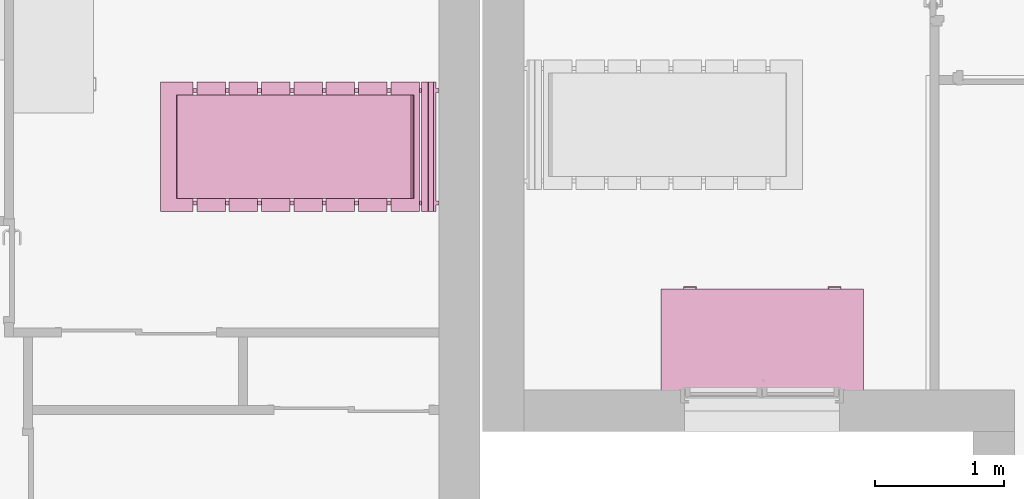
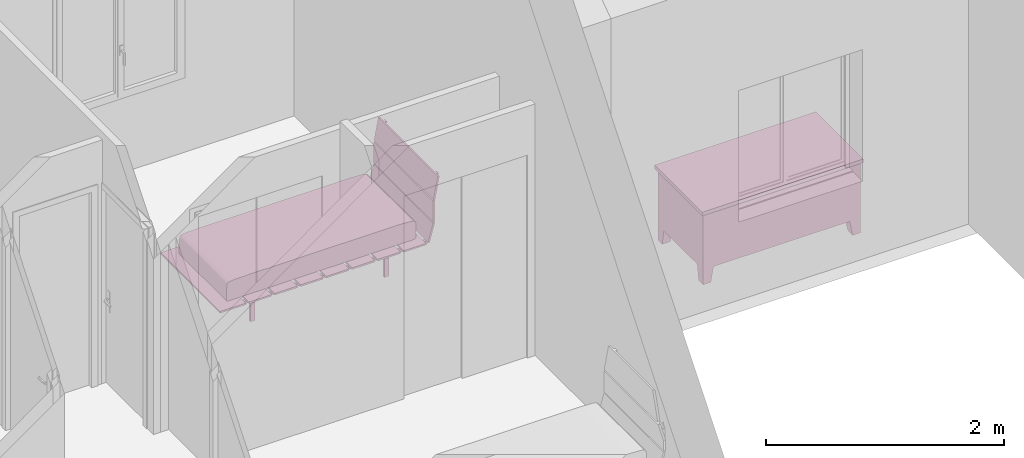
# One storey, part 54 of 61: 2 furnishings.
"""IFC2X3 building model written with IfcOpenShell, lengths in metres."""

from ifc_helpers import new_model, entity, si_unit, converted_unit, derived_unit, direction, frame, frame_2d, origin, origin_2d_with_axis, place, context, subcontext, project, spatial, polyline, circle_curve, parameter, trimmed, segment, composite_curve, rectangle, outline, extrude, faceted_brep, source, transform, mapped, material, material_list, type_object, type_shapes, element, save


model = new_model("IFC2X3")

# Units and contexts
model_context = context("Model", 3, precision=1e-05, world=origin(), true_north=direction((6.12303176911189e-17, 1.0)))
body_context = subcontext(model_context, "Body", "Model", "MODEL_VIEW")
ifc_project = project(units=[si_unit("LENGTHUNIT", "METRE"), si_unit("AREAUNIT", "SQUARE_METRE"), si_unit("VOLUMEUNIT", "CUBIC_METRE"), converted_unit("PLANEANGLEUNIT", "DEGREE", entity("IfcRatioMeasure", 0.0174532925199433), si_unit("PLANEANGLEUNIT", "RADIAN"), dimensions=[0, 0, 0, 0, 0, 0, 0]), si_unit("MASSUNIT", "GRAM", prefix="KILO"), derived_unit("MASSDENSITYUNIT", [(si_unit("MASSUNIT", "GRAM", prefix="KILO"), 1), (si_unit("LENGTHUNIT", "METRE"), -3)]), si_unit("TIMEUNIT", "SECOND"), si_unit("FREQUENCYUNIT", "HERTZ"), si_unit("THERMODYNAMICTEMPERATUREUNIT", "DEGREE_CELSIUS"), derived_unit("THERMALTRANSMITTANCEUNIT", [(si_unit("MASSUNIT", "GRAM", prefix="KILO"), 1), (si_unit("THERMODYNAMICTEMPERATUREUNIT", "KELVIN"), -1), (si_unit("TIMEUNIT", "SECOND"), -3)]), derived_unit("VOLUMETRICFLOWRATEUNIT", [(si_unit("LENGTHUNIT", "METRE"), 3), (si_unit("TIMEUNIT", "SECOND"), -1)]), si_unit("ELECTRICCURRENTUNIT", "AMPERE"), si_unit("ELECTRICVOLTAGEUNIT", "VOLT"), si_unit("POWERUNIT", "WATT"), si_unit("FORCEUNIT", "NEWTON", prefix="KILO"), si_unit("ILLUMINANCEUNIT", "LUX"), si_unit("LUMINOUSFLUXUNIT", "LUMEN"), si_unit("LUMINOUSINTENSITYUNIT", "CANDELA"), derived_unit("USERDEFINED", [(si_unit("MASSUNIT", "GRAM", prefix="KILO"), -1), (si_unit("LENGTHUNIT", "METRE"), -2), (si_unit("TIMEUNIT", "SECOND"), 3), (si_unit("LUMINOUSFLUXUNIT", "LUMEN"), 1)]), derived_unit("LINEARVELOCITYUNIT", [(si_unit("LENGTHUNIT", "METRE"), 1), (si_unit("TIMEUNIT", "SECOND"), -1)]), si_unit("PRESSUREUNIT", "PASCAL"), derived_unit("USERDEFINED", [(si_unit("LENGTHUNIT", "METRE"), -2), (si_unit("MASSUNIT", "GRAM", prefix="KILO"), 1), (si_unit("TIMEUNIT", "SECOND"), -2)])], contexts=[model_context])

# Site, building, storey
site_placement = place(None, origin())
site = spatial("IfcSite", under=ifc_project, at=site_placement, Name="Surface", CompositionType="ELEMENT")
building_placement = place(site_placement, origin())
building = spatial("IfcBuilding", under=site, at=building_placement, CompositionType="ELEMENT")
storey_placement = place(building_placement, frame((0.0, 0.0, 2.82)))
storey = spatial("IfcBuildingStorey", under=building, at=storey_placement, Name="ETAGE", CompositionType="ELEMENT", Elevation=2.82)

# Furnishings
ifc_material_1 = material(Name="Textile - Bleu pâle")
ifc_material_2 = material(Name="Bois - Teck")
ifc_material_3 = material(Name="Plastique - Noir")
ifc_material_list_1 = material_list([ifc_material_1, ifc_material_2, ifc_material_3])
ifc_material_list_2 = material_list([ifc_material_1, ifc_material_2, ifc_material_3])
furniture_type_1 = type_object("IfcFurnitureType", Name="1000 mm x 2000 mm 3", material=ifc_material_list_2)
shared_shape_1 = source(origin(), body_context, "Body", "SweptSolid", [
    extrude(outline(composite_curve([segment(polyline([(0.753947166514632, -0.0964613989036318), (0.883258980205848, -0.0964613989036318)]), True, "CONTINUOUS"), segment(trimmed(circle_curve(frame_2d((0.82804087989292, 1.1581587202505), x_axis=(0.999878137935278, -0.0156111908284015)), 1.25583465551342), [parameter(273.414556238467)], [parameter(275.726345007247)], True, "PARAMETER"), True, "CONTINUOUS"), segment(trimmed(circle_curve(frame_2d((0.929150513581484, -0.0379486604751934), x_axis=(0.999878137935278, -0.0156111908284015)), 0.0554613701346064), [parameter(275.726345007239)], [parameter(297.64810869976)], True, "PARAMETER"), True, "CONTINUOUS"), segment(trimmed(circle_curve(frame_2d((0.943544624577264, -0.0665015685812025), x_axis=(0.999878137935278, -0.0156111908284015)), 0.0234854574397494), [parameter(297.648108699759)], [parameter(348.570161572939)], True, "PARAMETER"), True, "CONTINUOUS"), segment(trimmed(circle_curve(frame_2d((0.767446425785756, -0.0280276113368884), x_axis=(0.999878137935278, -0.0156111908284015)), 0.203737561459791), [parameter(348.570161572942)], [parameter(3.56222124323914e-13)], True, "PARAMETER"), True, "CONTINUOUS"), segment(polyline([(0.971159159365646, -0.0312081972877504), (0.97301851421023, 0.0878812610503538)]), True, "CONTINUOUS"), segment(polyline([(0.97301851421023, 0.0878812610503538), (0.971187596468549, 0.10002359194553)]), True, "CONTINUOUS"), segment(polyline([(0.971187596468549, 0.10002359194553), (0.955059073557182, 0.102294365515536)]), True, "CONTINUOUS"), segment(polyline([(0.955059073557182, 0.102294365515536), (-0.834665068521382, 0.130237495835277)]), True, "CONTINUOUS"), segment(polyline([(-0.834665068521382, 0.130237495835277), (-0.854928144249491, 0.12651595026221)]), True, "CONTINUOUS"), segment(polyline([(-0.854928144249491, 0.12651595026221), (-0.861114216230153, 0.118536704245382)]), True, "CONTINUOUS"), segment(polyline([(-0.861114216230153, 0.118536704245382), (-0.865626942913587, 0.0883228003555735)]), True, "CONTINUOUS"), segment(polyline([(-0.865626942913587, 0.0883228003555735), (-0.866982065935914, 0.00152878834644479)]), True, "CONTINUOUS"), segment(polyline([(-0.866982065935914, 0.00152878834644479), (-0.863446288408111, -0.0308297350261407)]), True, "CONTINUOUS"), segment(polyline([(-0.863446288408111, -0.0308297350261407), (-0.857669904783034, -0.0490905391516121)]), True, "CONTINUOUS"), segment(polyline([(-0.857669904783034, -0.0490905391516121), (-0.843687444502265, -0.0594036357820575)]), True, "CONTINUOUS"), segment(polyline([(-0.843687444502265, -0.0594036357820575), (-0.817521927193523, -0.0658690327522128)]), True, "CONTINUOUS"), segment(polyline([(-0.817521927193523, -0.0658690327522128), (-0.696416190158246, -0.0738167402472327)]), True, "CONTINUOUS"), segment(polyline([(-0.696416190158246, -0.0738167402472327), (0.753947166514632, -0.0964613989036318)]), True, "CONTINUOUS")], self_intersect=False)), frame((-0.4, -1.05656455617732, 0.367191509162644), z_axis=(1.0, 0.0, 0.0), x_axis=(0.0, -0.999878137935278, -0.0156111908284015)), (0.0, 0.0, 1.0), 0.799999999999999),
    extrude(rectangle(XDim=0.249999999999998, YDim=1.0, at=origin_2d_with_axis()), frame((0.0, -2.02499620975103, 0.232311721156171), z_axis=(0.0, 0.0, 1.0), x_axis=(0.0, 1.0, 0.0)), (0.0, 0.0, 1.0), 0.0176882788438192),
    extrude(outline(polyline([(-0.00463256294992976, -0.115042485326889), (0.0130278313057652, -0.115042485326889), (0.00471132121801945, 0.115371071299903), (-0.0131065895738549, 0.114713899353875), (-0.00463256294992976, -0.115042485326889)])), frame((-0.5, -0.051324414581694, 0.783374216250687), z_axis=(1.0, 0.0, 0.0), x_axis=(0.0, 0.975885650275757, -0.218282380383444)), (0.0, 0.0, 1.0), 0.999999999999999),
    extrude(rectangle(XDim=0.219999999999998, YDim=1.0, at=frame_2d((-1.38777878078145e-16, 0.0), x_axis=(1.0, 0.0))), frame((0.0, -1.75999620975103, 0.232311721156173), z_axis=(0.0, 0.0, 1.0), x_axis=(0.0, 1.0, 0.0)), (0.0, 0.0, 1.0), 0.0176882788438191),
    extrude(rectangle(XDim=0.219999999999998, YDim=1.0, at=frame_2d((-1.31838984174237e-16, 0.0), x_axis=(1.0, 0.0))), frame((0.0, -1.50999620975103, 0.232311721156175), z_axis=(0.0, 0.0, 1.0), x_axis=(0.0, 1.0, 0.0)), (0.0, 0.0, 1.0), 0.017688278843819),
    extrude(rectangle(XDim=0.219999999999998, YDim=1.0, at=frame_2d((-1.38777878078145e-16, 0.0), x_axis=(1.0, 0.0))), frame((0.0, -1.25999620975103, 0.232311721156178), z_axis=(0.0, 0.0, 1.0), x_axis=(0.0, 1.0, 0.0)), (0.0, 0.0, 1.0), 0.0176882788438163),
    extrude(rectangle(XDim=0.219999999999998, YDim=1.0, at=frame_2d((6.93889390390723e-17, 0.0), x_axis=(1.0, 0.0))), frame((0.0, -1.00999620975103, 0.232311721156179), z_axis=(0.0, 0.0, 1.0), x_axis=(0.0, 1.0, 0.0)), (0.0, 0.0, 1.0), 0.0176882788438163),
    extrude(rectangle(XDim=0.22, YDim=1.0, at=origin_2d_with_axis()), frame((0.0, -0.759996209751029, 0.232311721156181), z_axis=(0.0, 0.0, 1.0), x_axis=(0.0, 1.0, 0.0)), (0.0, 0.0, 1.0), 0.0176882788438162),
    extrude(rectangle(XDim=0.22, YDim=1.0, at=origin_2d_with_axis()), frame((0.0, -0.509996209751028, 0.232311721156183), z_axis=(0.0, 0.0, 1.0), x_axis=(0.0, 1.0, 0.0)), (0.0, 0.0, 1.0), 0.0176882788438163),
    extrude(rectangle(XDim=0.22, YDim=1.0, at=origin_2d_with_axis()), frame((0.0, -0.259996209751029, 0.232311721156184), z_axis=(0.0, 0.0, 1.0), x_axis=(0.0, 1.0, 0.0)), (0.0, 0.0, 1.0), 0.0176882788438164),
    extrude(rectangle(XDim=0.0183684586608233, YDim=1.0, at=origin_2d_with_axis()), frame((0.0, -0.0735868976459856, 0.443802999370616), z_axis=(0.0, 0.0, 1.0), x_axis=(0.0, 1.0, 0.0)), (0.0, 0.0, 1.0), 0.214481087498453),
    extrude(outline(polyline([(-0.0111603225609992, -0.093944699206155), (0.00684599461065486, -0.093944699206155), (0.0109625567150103, 0.0940897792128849), (-0.00664822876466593, 0.093799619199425), (-0.0111603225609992, -0.093944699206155)])), frame((-0.5, -0.100341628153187, 0.340588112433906), z_axis=(1.0, 0.0, 0.0), x_axis=(0.0, 0.969329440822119, -0.245764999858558)), (0.0, 0.0, 1.0), 1.0),
    extrude(rectangle(XDim=0.0421792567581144, YDim=0.03, at=frame_2d((0.0, -3.38271077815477e-17), x_axis=(1.0, 0.0))), frame((-0.434999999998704, -1.80439834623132, 0.0), z_axis=(0.0, 0.0, 1.0), x_axis=(0.0, -1.0, 0.0)), (0.0, 0.0, 1.0), 0.204645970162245),
    extrude(rectangle(XDim=0.0421792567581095, YDim=0.03, at=frame_2d((3.29597460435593e-17, -3.38271077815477e-17), x_axis=(1.0, 0.0))), frame((-0.434999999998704, -0.505017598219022, 0.0), z_axis=(0.0, 0.0, 1.0), x_axis=(0.0, -1.0, 0.0)), (0.0, 0.0, 1.0), 0.204645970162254),
    extrude(rectangle(XDim=0.0421792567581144, YDim=0.03, at=frame_2d((2.70616862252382e-16, -3.38271077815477e-17), x_axis=(1.0, 0.0))), frame((0.435000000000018, -1.80439834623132, 0.0), z_axis=(0.0, 0.0, 1.0), x_axis=(0.0, 1.0, 0.0)), (0.0, 0.0, 1.0), 0.204645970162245),
    extrude(rectangle(XDim=0.0421792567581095, YDim=0.03, at=frame_2d((-3.29597460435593e-17, -3.38271077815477e-17), x_axis=(1.0, 0.0))), frame((0.435000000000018, -0.505017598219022, 0.0), z_axis=(0.0, 0.0, 1.0), x_axis=(0.0, 1.0, 0.0)), (0.0, 0.0, 1.0), 0.204645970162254),
    extrude(outline(composite_curve([segment(polyline([(-0.333462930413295, -0.507724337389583), (-0.311650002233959, -0.507724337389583)]), True, "CONTINUOUS"), segment(polyline([(-0.311650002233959, -0.507724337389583), (-0.317185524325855, -0.272424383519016)]), True, "CONTINUOUS"), segment(polyline([(-0.317185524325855, -0.272424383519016), (-0.363847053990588, -0.050782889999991)]), True, "CONTINUOUS"), segment(polyline([(-0.363847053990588, -0.050782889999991), (-0.350538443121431, 0.161194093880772)]), True, "CONTINUOUS"), segment(polyline([(-0.350538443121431, 0.161194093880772), (1.5836166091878, 0.569312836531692)]), True, "CONTINUOUS"), segment(polyline([(1.5836166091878, 0.569312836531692), (1.55147511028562, 0.589891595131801)]), True, "CONTINUOUS"), segment(polyline([(1.55147511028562, 0.589891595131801), (-0.355855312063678, 0.188346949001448)]), True, "CONTINUOUS"), segment(trimmed(circle_curve(frame_2d((-0.350332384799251, 0.162113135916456), x_axis=(0.978549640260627, 0.206011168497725)), 0.0268088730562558), [parameter(90.0)], [parameter(167.367566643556)], True, "PARAMETER"), True, "CONTINUOUS"), segment(polyline([(-0.377138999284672, 0.162461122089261), (-0.386037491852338, -0.0554545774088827)]), True, "CONTINUOUS"), segment(polyline([(-0.386037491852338, -0.0554545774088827), (-0.339375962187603, -0.277096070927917)]), True, "CONTINUOUS"), segment(polyline([(-0.339375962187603, -0.277096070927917), (-0.333462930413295, -0.507724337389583)]), True, "CONTINUOUS")], self_intersect=False)), frame((-0.449999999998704, -0.430906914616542, 0.462262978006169), z_axis=(1.0, 0.0, 0.0), x_axis=(0.0, -0.978549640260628, 0.206011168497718)), (0.0, 0.0, 1.0), 0.0299999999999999),
    extrude(outline(composite_curve([segment(polyline([(-0.333462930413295, -0.507724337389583), (-0.311650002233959, -0.507724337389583)]), True, "CONTINUOUS"), segment(polyline([(-0.311650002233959, -0.507724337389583), (-0.317185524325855, -0.272424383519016)]), True, "CONTINUOUS"), segment(polyline([(-0.317185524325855, -0.272424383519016), (-0.363847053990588, -0.0507828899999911)]), True, "CONTINUOUS"), segment(polyline([(-0.363847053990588, -0.0507828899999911), (-0.350538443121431, 0.161194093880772)]), True, "CONTINUOUS"), segment(polyline([(-0.350538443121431, 0.161194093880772), (1.5836166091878, 0.569312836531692)]), True, "CONTINUOUS"), segment(polyline([(1.5836166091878, 0.569312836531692), (1.55147511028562, 0.5898915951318)]), True, "CONTINUOUS"), segment(polyline([(1.55147511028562, 0.5898915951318), (-0.355855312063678, 0.188346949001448)]), True, "CONTINUOUS"), segment(trimmed(circle_curve(frame_2d((-0.350332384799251, 0.162113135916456), x_axis=(0.978549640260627, 0.206011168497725)), 0.0268088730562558), [parameter(90.0)], [parameter(167.367566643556)], True, "PARAMETER"), True, "CONTINUOUS"), segment(polyline([(-0.377138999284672, 0.162461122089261), (-0.386037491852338, -0.0554545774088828)]), True, "CONTINUOUS"), segment(polyline([(-0.386037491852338, -0.0554545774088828), (-0.339375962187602, -0.277096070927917)]), True, "CONTINUOUS"), segment(polyline([(-0.339375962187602, -0.277096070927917), (-0.333462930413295, -0.507724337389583)]), True, "CONTINUOUS")], self_intersect=False)), frame((0.420000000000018, -0.430906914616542, 0.462262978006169), z_axis=(1.0, 0.0, 0.0), x_axis=(0.0, -0.978549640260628, 0.206011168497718)), (0.0, 0.0, 1.0), 0.0299999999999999),
])
type_shapes(furniture_type_1, [shared_shape_1])
furnishing_1_placement = place(storey_placement, frame((75.962889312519, 86.1277566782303, 0.0199999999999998), z_axis=(0.0, 0.0, 1.0), x_axis=(0.0, -1.0, 0.0)))
element("IfcFurnishingElement", 1, at=furnishing_1_placement, inside=storey, type_object=furniture_type_1, material=ifc_material_list_1, Name="Lit à lattes:1000 mm x 2000 mm 3", ObjectType="Lit à lattes:1000 mm x 2000 mm 3", context=body_context, shape_type="MappedRepresentation", body=[
    mapped(shared_shape_1, transform((0.0, 0.0, 0.0), scale=1.0)),
])
ifc_material_4 = material(Name="Bois - Mélaminé ivoire")
ifc_material_5 = material(Name="Métal - Chrome")
ifc_material_6 = material(Name="Bois - Cerisier")
ifc_material_list_3 = material_list([ifc_material_4, ifc_material_5, ifc_material_6])
ifc_material_list_4 = material_list([ifc_material_4, ifc_material_5, ifc_material_6])
furniture_type_2 = type_object("IfcFurnitureType", Name="1525 mm x 762 mm", material=ifc_material_list_4)
shared_shape_2 = source(origin(), body_context, "Body", "Brep", [
    faceted_brep([(1.13765, -0.761999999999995, 0.70485), (1.50595, -0.761999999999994, 0.70485), (1.50595, -0.761999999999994, 0.60325), (1.13765, -0.761999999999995, 0.60325), (1.13765, -0.774699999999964, 0.60325), (1.13765, -0.774699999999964, 0.70485), (1.50595, -0.774699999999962, 0.60325), (1.50595, -0.774699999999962, 0.70485)], [[[0, 1, 2, 3]], [[3, 4, 5, 0]], [[2, 6, 4, 3]], [[1, 7, 6, 2]], [[0, 5, 7, 1]], [[5, 4, 6, 7]]]),
    faceted_brep([(1.50595, -0.774699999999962, 0.5842), (1.13765, -0.774699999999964, 0.5842), (1.13765, -0.774699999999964, 0.17105), (1.50595, -0.774699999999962, 0.17105), (1.13765, -0.761999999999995, 0.5842), (1.50595, -0.761999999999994, 0.5842), (1.13765, -0.761999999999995, 0.17105), (1.50595, -0.761999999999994, 0.17105)], [[[0, 1, 2, 3]], [[4, 1, 0, 5]], [[6, 2, 1, 4]], [[7, 3, 2, 6]], [[5, 0, 3, 7]], [[5, 7, 6, 4]]]),
    faceted_brep([(0.38735, -0.761999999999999, 0.70485), (0.38735, -0.761999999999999, 0.60285), (0.01905, -0.761999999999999, 0.60285), (0.01905, -0.761999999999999, 0.70485), (0.01905, -0.774700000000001, 0.70485), (0.38735, -0.774700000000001, 0.70485), (0.01905, -0.774700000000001, 0.60285), (0.38735, -0.774700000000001, 0.60285)], [[[0, 1, 2, 3]], [[3, 4, 5, 0]], [[2, 6, 4, 3]], [[1, 7, 6, 2]], [[0, 5, 7, 1]], [[5, 4, 6, 7]]]),
    faceted_brep([(0.01905, -0.774700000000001, 0.5838), (0.01905, -0.774700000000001, 0.4822), (0.38735, -0.774700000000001, 0.4822), (0.38735, -0.774700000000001, 0.5838), (0.01905, -0.761999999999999, 0.4822), (0.01905, -0.761999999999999, 0.5838), (0.38735, -0.761999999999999, 0.4822), (0.38735, -0.761999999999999, 0.5838)], [[[0, 1, 2, 3]], [[4, 1, 0, 5]], [[6, 2, 1, 4]], [[7, 3, 2, 6]], [[5, 0, 3, 7]], [[5, 7, 6, 4]]]),
    faceted_brep([(0.01905, -0.761999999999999, 0.17105), (0.01905, -0.774700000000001, 0.17105), (0.01905, -0.774700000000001, 0.3425), (0.01905, -0.761999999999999, 0.3425), (0.38735, -0.761999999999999, 0.17105), (0.38735, -0.774700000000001, 0.17105), (0.38735, -0.761999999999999, 0.3425), (0.38735, -0.774700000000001, 0.3425)], [[[0, 1, 2, 3]], [[4, 5, 1, 0]], [[6, 7, 5, 4]], [[3, 2, 7, 6]], [[2, 1, 5, 7]], [[3, 6, 4, 0]]]),
    faceted_brep([(0.01905, -0.761999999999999, 0.36155), (0.01905, -0.774700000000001, 0.36155), (0.01905, -0.774700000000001, 0.46315), (0.01905, -0.761999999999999, 0.46315), (0.38735, -0.761999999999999, 0.36155), (0.38735, -0.774700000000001, 0.36155), (0.38735, -0.761999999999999, 0.46315), (0.38735, -0.774700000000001, 0.46315)], [[[0, 1, 2, 3]], [[4, 5, 1, 0]], [[6, 7, 5, 4]], [[3, 2, 7, 6]], [[2, 1, 5, 7]], [[3, 6, 4, 0]]]),
    faceted_brep([(1.42339999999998, -0.761999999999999, 0.152), (1.52499999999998, -0.761999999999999, 0.152), (1.52499999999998, -0.660399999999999, 0.152), (1.42339999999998, -0.660399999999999, 0.152), (1.44879999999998, -0.762, 0.0), (1.44879999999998, -0.6858, 0.0), (1.52499999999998, -0.6858, 0.0), (1.52499999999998, -0.762, 0.0)], [[[0, 1, 2, 3]], [[4, 5, 6, 7]], [[4, 0, 3, 5]], [[5, 3, 2, 6]], [[6, 2, 1, 7]], [[7, 1, 0, 4]]]),
    faceted_brep([(1.4234, 0.0, 0.152), (1.4234, -0.1016, 0.152), (1.525, -0.1016, 0.152), (1.525, 0.0, 0.152), (1.4488, 0.0, 0.0), (1.525, 0.0, 0.0), (1.525, -0.0761999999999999, 0.0), (1.4488, -0.0761999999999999, 0.0)], [[[0, 1, 2, 3]], [[4, 5, 6, 7]], [[4, 0, 3, 5]], [[5, 3, 2, 6]], [[6, 2, 1, 7]], [[7, 1, 0, 4]]]),
    faceted_brep([(0.1016, 0.0, 0.152), (0.0, 0.0, 0.152), (0.0, -0.1016, 0.152), (0.1016, -0.1016, 0.152), (0.0762, 0.0, 0.0), (0.0762, -0.0761999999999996, 0.0), (0.0, -0.0761999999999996, 0.0), (0.0, 0.0, 0.0)], [[[0, 1, 2, 3]], [[4, 5, 6, 7]], [[4, 0, 3, 5]], [[5, 3, 2, 6]], [[6, 2, 1, 7]], [[7, 1, 0, 4]]]),
    faceted_brep([(0.1016, -0.762000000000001, 0.152), (0.1016, -0.660400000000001, 0.152), (0.0, -0.660400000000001, 0.152), (0.0, -0.762000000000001, 0.152), (0.0761999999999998, -0.762000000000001, 0.0), (0.0, -0.762000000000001, 0.0), (0.0, -0.685800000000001, 0.0), (0.0761999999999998, -0.685800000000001, 0.0)], [[[0, 1, 2, 3]], [[4, 5, 6, 7]], [[4, 0, 3, 5]], [[5, 3, 2, 6]], [[6, 2, 1, 7]], [[7, 1, 0, 4]]]),
    faceted_brep([(0.4064, -0.761999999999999, 0.723900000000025), (0.4064, -0.0508000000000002, 0.723900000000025), (1.11860000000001, -0.0508000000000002, 0.723900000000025), (1.11860000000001, -0.761999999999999, 0.723900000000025), (1.525, -0.761999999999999, 0.723900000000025), (1.525, 0.0, 0.723900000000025), (0.0, 0.0, 0.723900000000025), (0.0, -0.761999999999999, 0.723900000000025), (0.4064, -0.761999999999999, 0.152), (0.0, -0.761999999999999, 0.152), (0.0, 0.0, 0.152), (1.525, 0.0, 0.152), (1.525, -0.761999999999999, 0.152), (1.11860000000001, -0.761999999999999, 0.152), (1.11860000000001, -0.0508000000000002, 0.152), (0.4064, -0.0508000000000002, 0.152)], [[[0, 1, 2, 3, 4, 5, 6, 7]], [[8, 9, 10, 11, 12, 13, 14, 15]], [[7, 9, 8, 0]], [[6, 10, 9, 7]], [[5, 11, 10, 6]], [[4, 12, 11, 5]], [[3, 13, 12, 4]], [[2, 14, 13, 3]], [[1, 15, 14, 2]], [[0, 8, 15, 1]]]),
    faceted_brep([(1.54405000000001, -0.781049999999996, 0.761999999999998), (1.54405000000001, 0.0190500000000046, 0.761999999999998), (-0.0190499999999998, 0.0190500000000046, 0.761999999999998), (-0.0190499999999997, -0.781049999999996, 0.761999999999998), (1.54405000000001, -0.781049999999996, 0.723900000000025), (-0.0190499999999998, -0.781049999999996, 0.723900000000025), (-0.0190499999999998, 0.0190500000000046, 0.723900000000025), (1.54405000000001, 0.0190500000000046, 0.723900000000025)], [[[0, 1, 2, 3]], [[4, 5, 6, 7]], [[3, 5, 4, 0]], [[2, 6, 5, 3]], [[1, 7, 6, 2]], [[0, 4, 7, 1]]]),
    faceted_brep([(1.36624999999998, -0.774699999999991, 0.546100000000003), (1.37259999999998, -0.774699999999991, 0.546100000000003), (1.37259999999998, -0.774699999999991, 0.533399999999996), (1.36624999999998, -0.774699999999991, 0.533399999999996), (1.36624999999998, -0.793749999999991, 0.533399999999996), (1.36624999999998, -0.793749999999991, 0.546100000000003), (1.37259999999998, -0.80009999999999, 0.533399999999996), (1.37259999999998, -0.80009999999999, 0.546100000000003), (1.27734999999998, -0.793749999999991, 0.533399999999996), (1.27734999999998, -0.793749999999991, 0.546100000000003), (1.27099999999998, -0.80009999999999, 0.533399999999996), (1.27099999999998, -0.80009999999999, 0.546100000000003), (1.27734999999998, -0.774699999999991, 0.533399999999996), (1.27734999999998, -0.774699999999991, 0.546100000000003), (1.27099999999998, -0.774699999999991, 0.533399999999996), (1.27099999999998, -0.774699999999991, 0.546100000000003)], [[[0, 1, 2, 3]], [[3, 4, 5, 0]], [[2, 6, 4, 3]], [[1, 7, 6, 2]], [[0, 5, 7, 1]], [[4, 8, 9, 5]], [[6, 10, 8, 4]], [[7, 11, 10, 6]], [[5, 9, 11, 7]], [[8, 12, 13, 9]], [[10, 14, 12, 8]], [[11, 15, 14, 10]], [[9, 13, 15, 11]], [[13, 12, 14, 15]]]),
    faceted_brep([(1.36624999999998, -0.774699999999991, 0.654050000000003), (1.36624999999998, -0.79374999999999, 0.654050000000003), (1.36624999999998, -0.79374999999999, 0.666750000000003), (1.36624999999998, -0.774699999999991, 0.666750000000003), (1.37259999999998, -0.774699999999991, 0.654050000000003), (1.37259999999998, -0.800099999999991, 0.654050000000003), (1.37259999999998, -0.774699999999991, 0.666750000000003), (1.37259999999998, -0.800099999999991, 0.666750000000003), (1.27734999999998, -0.79374999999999, 0.654050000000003), (1.27734999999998, -0.79374999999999, 0.666750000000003), (1.27099999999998, -0.800099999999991, 0.654050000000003), (1.27099999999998, -0.800099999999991, 0.666750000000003), (1.27734999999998, -0.774699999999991, 0.666750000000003), (1.27734999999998, -0.774699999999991, 0.654050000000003), (1.27099999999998, -0.774699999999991, 0.654050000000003), (1.27099999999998, -0.774699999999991, 0.666750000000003)], [[[0, 1, 2, 3]], [[4, 5, 1, 0]], [[6, 7, 5, 4]], [[3, 2, 7, 6]], [[1, 8, 9, 2]], [[5, 10, 8, 1]], [[7, 11, 10, 5]], [[2, 9, 11, 7]], [[12, 13, 14, 15]], [[8, 13, 12, 9]], [[10, 14, 13, 8]], [[11, 15, 14, 10]], [[9, 12, 15, 11]], [[3, 6, 4, 0]]]),
    faceted_brep([(0.15875, -0.774699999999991, 0.3048), (0.15875, -0.774699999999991, 0.2921), (0.1524, -0.774699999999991, 0.2921), (0.1524, -0.774699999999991, 0.3048), (0.1524, -0.800099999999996, 0.3048), (0.15875, -0.793749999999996, 0.3048), (0.1524, -0.800099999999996, 0.2921), (0.15875, -0.793749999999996, 0.2921), (0.254, -0.800099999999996, 0.3048), (0.24765, -0.793749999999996, 0.3048), (0.254, -0.800099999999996, 0.2921), (0.24765, -0.793749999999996, 0.2921), (0.254, -0.774699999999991, 0.3048), (0.24765, -0.774699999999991, 0.3048), (0.254, -0.774699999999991, 0.2921), (0.24765, -0.774699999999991, 0.2921)], [[[0, 1, 2, 3]], [[3, 4, 5, 0]], [[2, 6, 4, 3]], [[1, 7, 6, 2]], [[0, 5, 7, 1]], [[4, 8, 9, 5]], [[6, 10, 8, 4]], [[7, 11, 10, 6]], [[5, 9, 11, 7]], [[8, 12, 13, 9]], [[10, 14, 12, 8]], [[11, 15, 14, 10]], [[9, 13, 15, 11]], [[13, 12, 14, 15]]]),
    faceted_brep([(0.1524, -0.774699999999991, 0.425450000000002), (0.1524, -0.800099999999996, 0.425450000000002), (0.15875, -0.793749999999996, 0.425450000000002), (0.15875, -0.774699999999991, 0.425450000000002), (0.1524, -0.774699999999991, 0.412750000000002), (0.1524, -0.800099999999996, 0.412750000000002), (0.15875, -0.774699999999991, 0.412750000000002), (0.15875, -0.793749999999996, 0.412750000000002), (0.254, -0.800099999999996, 0.425450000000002), (0.24765, -0.793749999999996, 0.425450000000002), (0.254, -0.800099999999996, 0.412750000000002), (0.24765, -0.793749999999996, 0.412750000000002), (0.254, -0.774699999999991, 0.425450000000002), (0.24765, -0.774699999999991, 0.425450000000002), (0.254, -0.774699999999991, 0.412750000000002), (0.24765, -0.774699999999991, 0.412750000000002)], [[[0, 1, 2, 3]], [[4, 5, 1, 0]], [[6, 7, 5, 4]], [[3, 2, 7, 6]], [[1, 8, 9, 2]], [[5, 10, 8, 1]], [[7, 11, 10, 5]], [[2, 9, 11, 7]], [[8, 12, 13, 9]], [[10, 14, 12, 8]], [[11, 15, 14, 10]], [[9, 13, 15, 11]], [[13, 12, 14, 15]], [[3, 6, 4, 0]]]),
    faceted_brep([(0.1524, -0.774699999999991, 0.5461), (0.1524, -0.800099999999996, 0.5461), (0.15875, -0.793749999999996, 0.5461), (0.15875, -0.774699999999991, 0.5461), (0.1524, -0.774699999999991, 0.5334), (0.1524, -0.800099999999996, 0.5334), (0.15875, -0.774699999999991, 0.5334), (0.15875, -0.793749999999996, 0.5334), (0.254, -0.800099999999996, 0.5461), (0.24765, -0.793749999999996, 0.5461), (0.254, -0.800099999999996, 0.5334), (0.24765, -0.793749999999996, 0.5334), (0.254, -0.774699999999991, 0.5461), (0.24765, -0.774699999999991, 0.5461), (0.254, -0.774699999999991, 0.5334), (0.24765, -0.774699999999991, 0.5334)], [[[0, 1, 2, 3]], [[4, 5, 1, 0]], [[6, 7, 5, 4]], [[3, 2, 7, 6]], [[1, 8, 9, 2]], [[5, 10, 8, 1]], [[7, 11, 10, 5]], [[2, 9, 11, 7]], [[8, 12, 13, 9]], [[10, 14, 12, 8]], [[11, 15, 14, 10]], [[9, 13, 15, 11]], [[13, 12, 14, 15]], [[3, 6, 4, 0]]]),
    faceted_brep([(0.1524, -0.774699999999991, 0.666750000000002), (0.1524, -0.800099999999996, 0.666750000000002), (0.15875, -0.793749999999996, 0.666750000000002), (0.15875, -0.774699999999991, 0.666750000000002), (0.1524, -0.774699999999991, 0.654050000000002), (0.1524, -0.800099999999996, 0.654050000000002), (0.15875, -0.774699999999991, 0.654050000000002), (0.15875, -0.793749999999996, 0.654050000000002), (0.254, -0.800099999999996, 0.666750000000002), (0.24765, -0.793749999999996, 0.666750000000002), (0.254, -0.800099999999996, 0.654050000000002), (0.24765, -0.793749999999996, 0.654050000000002), (0.24765, -0.774699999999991, 0.666750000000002), (0.254, -0.774699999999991, 0.666750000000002), (0.254, -0.774699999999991, 0.654050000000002), (0.24765, -0.774699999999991, 0.654050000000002)], [[[0, 1, 2, 3]], [[4, 5, 1, 0]], [[6, 7, 5, 4]], [[3, 2, 7, 6]], [[1, 8, 9, 2]], [[5, 10, 8, 1]], [[7, 11, 10, 5]], [[2, 9, 11, 7]], [[12, 13, 14, 15]], [[8, 13, 12, 9]], [[10, 14, 13, 8]], [[11, 15, 14, 10]], [[9, 12, 15, 11]], [[3, 6, 4, 0]]]),
])
type_shapes(furniture_type_2, [shared_shape_2])
furnishing_2_placement = place(storey_placement, frame((79.2260189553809, 84.2475239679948, 0.0199999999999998), z_axis=(0.0, 0.0, 1.0), x_axis=(-1.0, 0.0, 0.0)))
element("IfcFurnishingElement", 2, at=furnishing_2_placement, inside=storey, type_object=furniture_type_2, material=ifc_material_list_3, Name="Bureau commun:1525 mm x 762 mm", ObjectType="Bureau commun:1525 mm x 762 mm", context=body_context, shape_type="MappedRepresentation", body=[
    mapped(shared_shape_2, transform((0.0, 0.0, 0.0), scale=1.0)),
])

save(model, "model.ifc")
